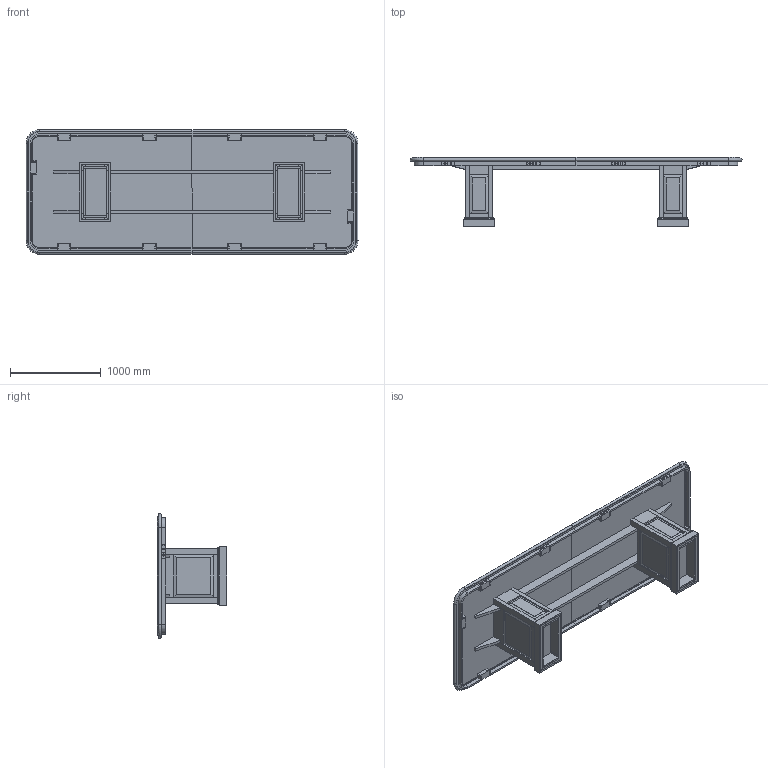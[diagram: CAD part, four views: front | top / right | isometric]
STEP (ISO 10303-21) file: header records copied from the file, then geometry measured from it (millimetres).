
FILE_DESCRIPTION(/* description */ ('','CAx-IF Rec.Pracs.---Representation and Presentation of Product Manufacturing Information (PMI)---4.0---2014-10-13'),/* implementation_level */ '2;1');
FILE_NAME(/* name */ 'TABLE_CAMBRIDGE 4.stp',/* time_stamp */ '2024-12-07T17:24:05-05:00',/* author */ ('mbowman'),/* organization */ (''),/* preprocessor_version */ 'ST-DEVELOPER v19.2',/* originating_system */ 'Autodesk Inventor 2023',/* authorisation */ '');
FILE_SCHEMA (('AP242_MANAGED_MODEL_BASED_3D_ENGINEERING_MIM_LF { 1 0 10303 442 1 1 4 }'));
Length unit declared in the file: inch
Products named in the file (61): CAMBRIDGE^TABLE 4_54144 2 PC-SOLID ASSEMBLY; CAMBRIDGE^TABLE 4_HINGED DOOR BASE-ASSEMBLY; BLUM 75T1750 INSERT HINGE COMPLETE; R30438 - HINGE 107DEG SPRUNG INSET BLUM 75T1780; BLUM 75T1750 INSERT HINGE COMPLETE_1; R30438 - HINGE 107DEG SPRUNG INSET BLUM 75T1780_1; CAMBRIDGE^TABLE 4_HINGED DOOR BASE-ASSEMBLY_1; CAMBRIDGE^TABLE 4_HINGED DOOR BASE-CORNER STILE 1; CAMBRIDGE^TABLE 4_HINGED DOOR BASE-CORNER STILE 2; CAMBRIDGE^TABLE 4_HINGED DOOR BASE-CORNER STILE 3; CAMBRIDGE^TABLE 4_HINGED DOOR BASE-CORNER STILE 4; CAMBRIDGE^TABLE 4_HINGED DOOR BASE-CORNER STILE 5; CAMBRIDGE^TABLE 4_HINGED DOOR BASE-CORNER STILE 6; CAMBRIDGE^TABLE 4_HINGED DOOR BASE-CORNER STILE 7; CAMBRIDGE^TABLE 4_HINGED DOOR BASE-CORNER STILE 8; CAMBRIDGE^TABLE 4_HINGED DOOR BASE-BOTTOM FRONT STILE; CAMBRIDGE^TABLE 4_HINGED DOOR BASE-BOTTOM END STILE 1; CAMBRIDGE^TABLE 4_HINGED DOOR BASE-BOTTOM BACK STILE; CAMBRIDGE^TABLE 4_HINGED DOOR BASE-BOTTOM END STILE 2; CAMBRIDGE^TABLE 4_HINGED DOOR BASE-TOP END STILE 1; CAMBRIDGE^TABLE 4_HINGED DOOR BASE-TOP END STILE 2; CAMBRIDGE^TABLE 4_HINGED DOOR BASE-TOP FRONT STILE; CAMBRIDGE^TABLE 4_HINGED DOOR BASE-INSIDE END 1; CAMBRIDGE^TABLE 4_HINGED DOOR BASE-INSIDE END 2; CAMBRIDGE^TABLE 4_HINGED DOOR BASE-INSIDE BACK; CAMBRIDGE^TABLE 4_HINGED DOOR BASE-TOP BACK STILE; CAMBRIDGE^TABLE 4_HINGED DOOR BASE-BASE BOTTOM; CAMBRIDGE^TABLE 4_HINGED DOOR BASE-HINGE SOLID 1; CAMBRIDGE^TABLE 4_HINGED DOOR BASE-HINGE SOLID 2; CAMBRIDGE^TABLE 4_HINGED DOOR BASE-BASE TOP; CAMBRIDGE^TABLE 4_HINGED DOOR BASE-KEEL SPACER 1; CAMBRIDGE^TABLE 4_HINGED DOOR BASE-KEEL SPACER 2; CAMBRIDGE^TABLE 4_HINGED DOOR BASE-OUTSIDE END 1; CAMBRIDGE^TABLE 4_HINGED DOOR BASE-OUTSIDE END 2; CAMBRIDGE^TABLE 4_HINGED DOOR BASE-OUTSIDE BACK; CAMBRIDGE^TABLE 4_HINGED DOOR BASE-HINGED DOOR; CAMBRIDGE^TABLE 4_HINGED DOOR BASE-BACK TOP FILLER; CAMBRIDGE^TABLE 4_HINGED DOOR BASE-BASE TK END 1; CAMBRIDGE^TABLE 4_HINGED DOOR BASE-BASE TK END 2; CAMBRIDGE^TABLE 4_HINGED DOOR BASE-BASE TK FRONT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
Assembly tree (123 placements, depth 6):
  CAMBRIDGE^TABLE 4_54144 2 PC-SOLID ASSEMBLY
    CAMBRIDGE^TABLE 4_HINGED DOOR BASE-ASSEMBLY
      CAMBRIDGE^TABLE 4_HINGED DOOR BASE-CORNER STILE 1
      CAMBRIDGE^TABLE 4_HINGED DOOR BASE-CORNER STILE 2
      CAMBRIDGE^TABLE 4_HINGED DOOR BASE-CORNER STILE 3
      CAMBRIDGE^TABLE 4_HINGED DOOR BASE-CORNER STILE 4
      CAMBRIDGE^TABLE 4_HINGED DOOR BASE-CORNER STILE 5
      CAMBRIDGE^TABLE 4_HINGED DOOR BASE-CORNER STILE 6
      CAMBRIDGE^TABLE 4_HINGED DOOR BASE-CORNER STILE 7
      CAMBRIDGE^TABLE 4_HINGED DOOR BASE-CORNER STILE 8
      CAMBRIDGE^TABLE 4_HINGED DOOR BASE-BOTTOM FRONT STILE
      CAMBRIDGE^TABLE 4_HINGED DOOR BASE-BOTTOM END STILE 1
      CAMBRIDGE^TABLE 4_HINGED DOOR BASE-BOTTOM BACK STILE
      CAMBRIDGE^TABLE 4_HINGED DOOR BASE-BOTTOM END STILE 2
      CAMBRIDGE^TABLE 4_HINGED DOOR BASE-TOP END STILE 1
      CAMBRIDGE^TABLE 4_HINGED DOOR BASE-TOP END STILE 2
      CAMBRIDGE^TABLE 4_HINGED DOOR BASE-TOP FRONT STILE
      CAMBRIDGE^TABLE 4_HINGED DOOR BASE-INSIDE END 1
      CAMBRIDGE^TABLE 4_HINGED DOOR BASE-INSIDE END 2
      CAMBRIDGE^TABLE 4_HINGED DOOR BASE-INSIDE BACK
      CAMBRIDGE^TABLE 4_HINGED DOOR BASE-TOP BACK STILE
      CAMBRIDGE^TABLE 4_HINGED DOOR BASE-BASE BOTTOM
      CAMBRIDGE^TABLE 4_HINGED DOOR BASE-HINGE SOLID 1
      CAMBRIDGE^TABLE 4_HINGED DOOR BASE-HINGE SOLID 2
      CAMBRIDGE^TABLE 4_HINGED DOOR BASE-BASE TOP
      CAMBRIDGE^TABLE 4_HINGED DOOR BASE-KEEL SPACER 1
      CAMBRIDGE^TABLE 4_HINGED DOOR BASE-KEEL SPACER 2
      CAMBRIDGE^TABLE 4_HINGED DOOR BASE-OUTSIDE END 1
      CAMBRIDGE^TABLE 4_HINGED DOOR BASE-OUTSIDE END 2
      CAMBRIDGE^TABLE 4_HINGED DOOR BASE-OUTSIDE BACK
      CAMBRIDGE^TABLE 4_HINGED DOOR BASE-HINGED DOOR
      CAMBRIDGE^TABLE 4_HINGED DOOR BASE-BACK TOP FILLER
      CAMBRIDGE^TABLE 4_HINGED DOOR BASE-BASE TK END 1
      CAMBRIDGE^TABLE 4_HINGED DOOR BASE-BASE TK END 2
      CAMBRIDGE^TABLE 4_HINGED DOOR BASE-BASE TK FRONT
      CAMBRIDGE^TABLE 4_HINGED DOOR BASE-BASE TK BACK
      BLUM 75T1750 INSERT HINGE COMPLETE
        Base Plate 175H7100
          Base PLate 1
          Base PLate 2
          Arm Inner
            Arm inner_1
            Arm inner pin  x3
            Clip new
        R30438 - HINGE 107DEG SPRUNG INSET BLUM 75T1780
          R30438 PART1
          Unsprung 1
          Unsprung 3
          Unsprung 4
      BLUM 75T1750 INSERT HINGE COMPLETE_1
        Base Plate 175H7100
          Base PLate 1
          Base PLate 2
          Arm Inner
            Arm inner_1
            Arm inner pin  x3
            Clip new
        R30438 - HINGE 107DEG SPRUNG INSET BLUM 75T1780_1
          R30438 PART1
          Unsprung 1
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Bounding box: 3657.56 x 762 x 1371.56 mm (x, y, z)
Volume: 304618815.2 mm3; surface area: 27340224.1 mm2
Topology: 150 solids, 150 shells, 4190 faces, 10540 edges, 6760 vertices
Faces by surface type: plane 2394, cylinder 1232, torus 248, bspline 152, cone 92, sphere 72
Full cylindrical faces by diameter (mm): 2 x64, 2.5 x36, 3 x32, 3.242 x8, 4.5 x12, 4.6 x8, 6.35 x20, 7 x4, 8.636 x40, 34.9 x4
Entity records: 47081 total; most frequent: CARTESIAN_POINT 9595, DIRECTION 7940, ORIENTED_EDGE 6060, EDGE_CURVE 3030, AXIS2_PLACEMENT_3D 2898, LINE 2144, VECTOR 2144, VERTEX_POINT 1949
